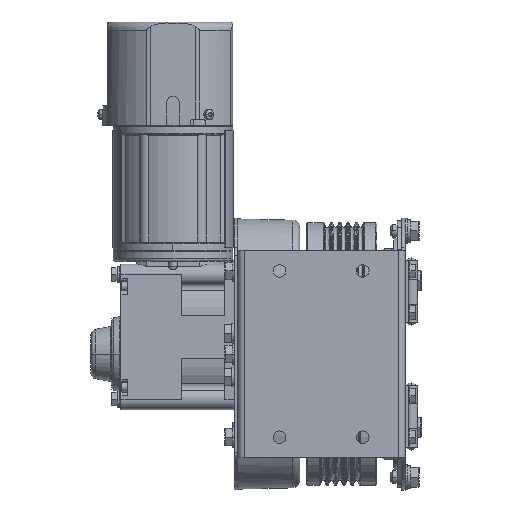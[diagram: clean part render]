
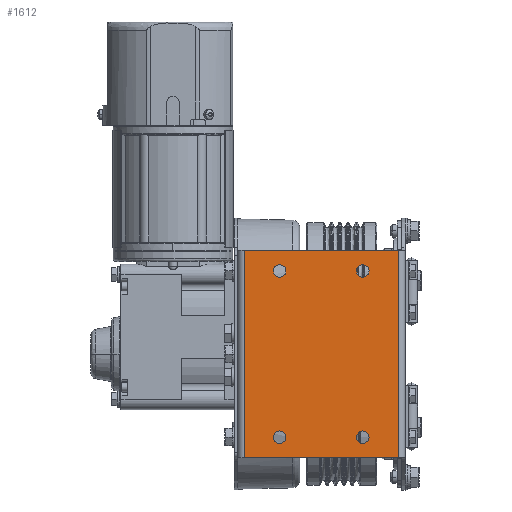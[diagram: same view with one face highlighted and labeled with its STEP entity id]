
A CAD part, front view. The second image highlights one B-rep face of the part: STEP entity #1612.
In plain terms, the highlighted planar face has unit normal (0, -1, 0).
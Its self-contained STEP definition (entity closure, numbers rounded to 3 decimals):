
#1612=ADVANCED_FACE('',(#13494,#13495,#13496,#13497,#13498),#13493,.T.);
#13493=PLANE('',#34354);
#13494=FACE_OUTER_BOUND('',#34355,.T.);
#13495=FACE_BOUND('',#34356,.T.);
#13496=FACE_BOUND('',#34357,.T.);
#13497=FACE_BOUND('',#34358,.T.);
#13498=FACE_BOUND('',#34359,.T.);
#34351=CARTESIAN_POINT('',(-768.965,-596.281,-746.521));
#34352=DIRECTION('',(0.,-1.,0.));
#34353=DIRECTION('',(1.,0.,0.));
#34354=AXIS2_PLACEMENT_3D('',#34351,#34352,#34353);
#34355=EDGE_LOOP('',(#51132,#51133,#51134,#51135));
#34356=EDGE_LOOP('',(#51136,#51137,#51138));
#34357=EDGE_LOOP('',(#51139,#51140,#51141));
#34358=EDGE_LOOP('',(#51142,#51143,#51144));
#34359=EDGE_LOOP('',(#51145,#51146,#51147));
#51132=ORIENTED_EDGE('',*,*,#61887,.F.);
#51133=ORIENTED_EDGE('',*,*,#61901,.F.);
#51134=ORIENTED_EDGE('',*,*,#61889,.T.);
#51135=ORIENTED_EDGE('',*,*,#61902,.T.);
#51136=ORIENTED_EDGE('',*,*,#61903,.F.);
#51137=ORIENTED_EDGE('',*,*,#61904,.F.);
#51138=ORIENTED_EDGE('',*,*,#61905,.F.);
#51139=ORIENTED_EDGE('',*,*,#61906,.F.);
#51140=ORIENTED_EDGE('',*,*,#61907,.F.);
#51141=ORIENTED_EDGE('',*,*,#61908,.F.);
#51142=ORIENTED_EDGE('',*,*,#61909,.F.);
#51143=ORIENTED_EDGE('',*,*,#61910,.F.);
#51144=ORIENTED_EDGE('',*,*,#61911,.F.);
#51145=ORIENTED_EDGE('',*,*,#61912,.F.);
#51146=ORIENTED_EDGE('',*,*,#61913,.F.);
#51147=ORIENTED_EDGE('',*,*,#61914,.F.);
#61887=EDGE_CURVE('',#87366,#87290,#87373,.T.);
#61889=EDGE_CURVE('',#87387,#87379,#87388,.T.);
#61901=EDGE_CURVE('',#87387,#87366,#87468,.T.);
#61902=EDGE_CURVE('',#87379,#87290,#87474,.T.);
#61903=EDGE_CURVE('',#87480,#87481,#87482,.T.);
#61904=EDGE_CURVE('',#87488,#87480,#87489,.T.);
#61905=EDGE_CURVE('',#87481,#87488,#87495,.T.);
#61906=EDGE_CURVE('',#87501,#87502,#87503,.T.);
#61907=EDGE_CURVE('',#87509,#87501,#87510,.T.);
#61908=EDGE_CURVE('',#87502,#87509,#87516,.T.);
#61909=EDGE_CURVE('',#87522,#87523,#87524,.T.);
#61910=EDGE_CURVE('',#87530,#87522,#87531,.T.);
#61911=EDGE_CURVE('',#87523,#87530,#87537,.T.);
#61912=EDGE_CURVE('',#87543,#87544,#87545,.T.);
#61913=EDGE_CURVE('',#87551,#87543,#87552,.T.);
#61914=EDGE_CURVE('',#87544,#87551,#87558,.T.);
#87290=VERTEX_POINT('',#123950);
#87366=VERTEX_POINT('',#123996);
#87373=LINE('',#124001,#124002);
#87379=VERTEX_POINT('',#124004);
#87387=VERTEX_POINT('',#124010);
#87388=LINE('',#124011,#124012);
#87468=LINE('',#124058,#124059);
#87474=LINE('',#124061,#124062);
#87480=VERTEX_POINT('',#124064);
#87481=VERTEX_POINT('',#124065);
#87482=CIRCLE('',#124069,6.);
#87488=VERTEX_POINT('',#124070);
#87489=CIRCLE('',#124074,6.);
#87495=CIRCLE('',#124078,6.);
#87501=VERTEX_POINT('',#124079);
#87502=VERTEX_POINT('',#124080);
#87503=CIRCLE('',#124084,6.);
#87509=VERTEX_POINT('',#124085);
#87510=CIRCLE('',#124089,6.);
#87516=CIRCLE('',#124093,6.);
#87522=VERTEX_POINT('',#124094);
#87523=VERTEX_POINT('',#124095);
#87524=CIRCLE('',#124099,6.);
#87530=VERTEX_POINT('',#124100);
#87531=CIRCLE('',#124104,6.);
#87537=CIRCLE('',#124108,6.);
#87543=VERTEX_POINT('',#124109);
#87544=VERTEX_POINT('',#124110);
#87545=CIRCLE('',#124114,6.);
#87551=VERTEX_POINT('',#124115);
#87552=CIRCLE('',#124119,6.);
#87558=CIRCLE('',#124123,6.);
#123950=CARTESIAN_POINT('',(-610.765,-596.281,-536.521));
#123996=CARTESIAN_POINT('',(-758.965,-596.281,-536.521));
#124001=CARTESIAN_POINT('',(-758.965,-596.281,-536.521));
#124002=VECTOR('',#124003,148.2);
#124003=DIRECTION('',(1.,0.,0.));
#124004=CARTESIAN_POINT('',(-610.765,-596.281,-736.521));
#124010=CARTESIAN_POINT('',(-758.965,-596.281,-736.521));
#124011=CARTESIAN_POINT('',(-758.965,-596.281,-736.521));
#124012=VECTOR('',#124013,148.2);
#124013=DIRECTION('',(1.,0.,0.));
#124058=CARTESIAN_POINT('',(-758.965,-596.281,-736.521));
#124059=VECTOR('',#124060,200.);
#124060=DIRECTION('',(0.,0.,1.));
#124061=CARTESIAN_POINT('',(-610.765,-596.281,-736.521));
#124062=VECTOR('',#124063,200.);
#124063=DIRECTION('',(0.,0.,1.));
#124064=CARTESIAN_POINT('',(-724.964,-596.281,-710.521));
#124065=CARTESIAN_POINT('',(-730.965,-596.281,-716.521));
#124066=CARTESIAN_POINT('',(-724.965,-596.281,-716.521));
#124067=DIRECTION('',(0.,-1.,0.));
#124068=DIRECTION('',(-1.,0.,0.));
#124069=AXIS2_PLACEMENT_3D('',#124066,#124067,#124068);
#124070=CARTESIAN_POINT('',(-724.965,-596.281,-722.521));
#124071=CARTESIAN_POINT('',(-724.965,-596.281,-716.521));
#124072=DIRECTION('',(0.,-1.,0.));
#124073=DIRECTION('',(-1.,0.,0.));
#124074=AXIS2_PLACEMENT_3D('',#124071,#124072,#124073);
#124075=CARTESIAN_POINT('',(-724.965,-596.281,-716.521));
#124076=DIRECTION('',(0.,-1.,0.));
#124077=DIRECTION('',(-1.,0.,0.));
#124078=AXIS2_PLACEMENT_3D('',#124075,#124076,#124077);
#124079=CARTESIAN_POINT('',(-644.964,-596.281,-710.521));
#124080=CARTESIAN_POINT('',(-650.965,-596.281,-716.521));
#124081=CARTESIAN_POINT('',(-644.965,-596.281,-716.521));
#124082=DIRECTION('',(0.,-1.,0.));
#124083=DIRECTION('',(-1.,0.,0.));
#124084=AXIS2_PLACEMENT_3D('',#124081,#124082,#124083);
#124085=CARTESIAN_POINT('',(-644.965,-596.281,-722.521));
#124086=CARTESIAN_POINT('',(-644.965,-596.281,-716.521));
#124087=DIRECTION('',(0.,-1.,0.));
#124088=DIRECTION('',(-1.,0.,0.));
#124089=AXIS2_PLACEMENT_3D('',#124086,#124087,#124088);
#124090=CARTESIAN_POINT('',(-644.965,-596.281,-716.521));
#124091=DIRECTION('',(0.,-1.,0.));
#124092=DIRECTION('',(-1.,0.,0.));
#124093=AXIS2_PLACEMENT_3D('',#124090,#124091,#124092);
#124094=CARTESIAN_POINT('',(-644.964,-596.281,-550.521));
#124095=CARTESIAN_POINT('',(-650.965,-596.281,-556.521));
#124096=CARTESIAN_POINT('',(-644.965,-596.281,-556.521));
#124097=DIRECTION('',(0.,-1.,0.));
#124098=DIRECTION('',(-1.,0.,0.));
#124099=AXIS2_PLACEMENT_3D('',#124096,#124097,#124098);
#124100=CARTESIAN_POINT('',(-644.965,-596.281,-562.521));
#124101=CARTESIAN_POINT('',(-644.965,-596.281,-556.521));
#124102=DIRECTION('',(0.,-1.,0.));
#124103=DIRECTION('',(-1.,0.,0.));
#124104=AXIS2_PLACEMENT_3D('',#124101,#124102,#124103);
#124105=CARTESIAN_POINT('',(-644.965,-596.281,-556.521));
#124106=DIRECTION('',(0.,-1.,0.));
#124107=DIRECTION('',(-1.,0.,0.));
#124108=AXIS2_PLACEMENT_3D('',#124105,#124106,#124107);
#124109=CARTESIAN_POINT('',(-724.964,-596.281,-550.521));
#124110=CARTESIAN_POINT('',(-730.965,-596.281,-556.521));
#124111=CARTESIAN_POINT('',(-724.965,-596.281,-556.521));
#124112=DIRECTION('',(0.,-1.,0.));
#124113=DIRECTION('',(-1.,0.,0.));
#124114=AXIS2_PLACEMENT_3D('',#124111,#124112,#124113);
#124115=CARTESIAN_POINT('',(-724.965,-596.281,-562.521));
#124116=CARTESIAN_POINT('',(-724.965,-596.281,-556.521));
#124117=DIRECTION('',(0.,-1.,0.));
#124118=DIRECTION('',(-1.,0.,0.));
#124119=AXIS2_PLACEMENT_3D('',#124116,#124117,#124118);
#124120=CARTESIAN_POINT('',(-724.965,-596.281,-556.521));
#124121=DIRECTION('',(0.,-1.,0.));
#124122=DIRECTION('',(-1.,0.,0.));
#124123=AXIS2_PLACEMENT_3D('',#124120,#124121,#124122);
